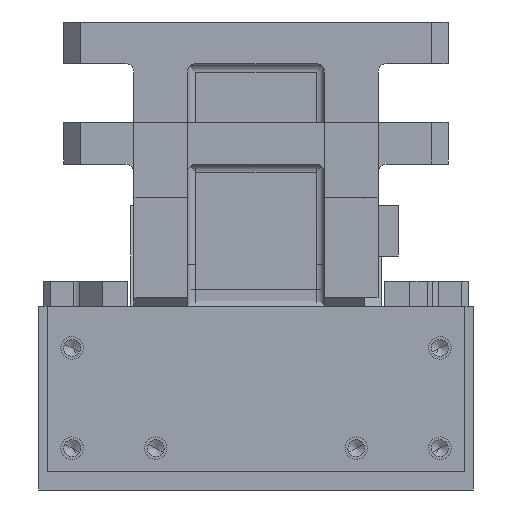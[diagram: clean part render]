
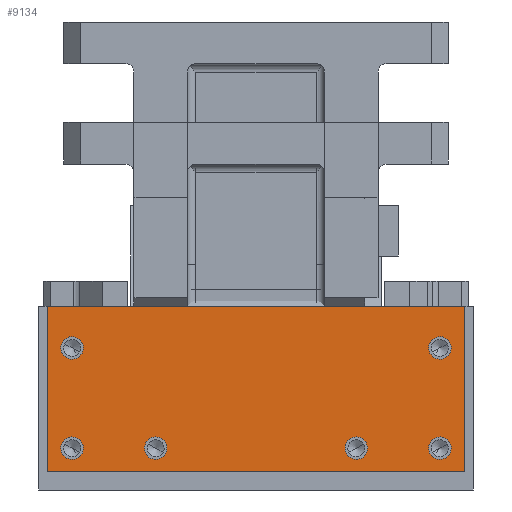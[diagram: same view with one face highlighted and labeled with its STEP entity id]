
A CAD part, left-side view. The second image highlights one B-rep face of the part: STEP entity #9134.
In plain terms, the highlighted planar face has unit normal (-1, 0, 0).
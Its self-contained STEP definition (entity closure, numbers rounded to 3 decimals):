
#7212=CARTESIAN_POINT('Vertex',(-12.,125.,110.)) ;
#7215=CARTESIAN_POINT('Line Origine',(-12.,0.,110.)) ;
#7219=CARTESIAN_POINT('Vertex',(-12.,-125.,110.)) ;
#8983=CARTESIAN_POINT('Vertex',(-12.,65.924,28.236)) ;
#8990=CARTESIAN_POINT('Vertex',(-12.,54.076,21.764)) ;
#8993=CARTESIAN_POINT('Axis2P3D Location',(-12.,60.,25.)) ;
#9005=CARTESIAN_POINT('Axis2P3D Location',(-12.,0.,0.)) ;
#9010=CARTESIAN_POINT('Line Origine',(-12.,125.,60.5)) ;
#9014=CARTESIAN_POINT('Vertex',(-12.,125.,11.)) ;
#9017=CARTESIAN_POINT('Line Origine',(-12.,0.,11.)) ;
#9021=CARTESIAN_POINT('Vertex',(-12.,-125.,11.)) ;
#9024=CARTESIAN_POINT('Line Origine',(-12.,-125.,60.5)) ;
#9035=CARTESIAN_POINT('Axis2P3D Location',(-12.,-110.,25.)) ;
#9039=CARTESIAN_POINT('Vertex',(-12.,-115.924,28.236)) ;
#9041=CARTESIAN_POINT('Vertex',(-12.,-104.076,21.764)) ;
#9044=CARTESIAN_POINT('Axis2P3D Location',(-12.,-110.,25.)) ;
#9053=CARTESIAN_POINT('Axis2P3D Location',(-12.,-110.,85.)) ;
#9057=CARTESIAN_POINT('Vertex',(-12.,-115.924,88.236)) ;
#9059=CARTESIAN_POINT('Vertex',(-12.,-104.076,81.764)) ;
#9062=CARTESIAN_POINT('Axis2P3D Location',(-12.,-110.,85.)) ;
#9071=CARTESIAN_POINT('Axis2P3D Location',(-12.,-60.,25.)) ;
#9075=CARTESIAN_POINT('Vertex',(-12.,-65.924,28.236)) ;
#9077=CARTESIAN_POINT('Vertex',(-12.,-54.076,21.764)) ;
#9080=CARTESIAN_POINT('Axis2P3D Location',(-12.,-60.,25.)) ;
#9089=CARTESIAN_POINT('Axis2P3D Location',(-12.,110.,25.)) ;
#9093=CARTESIAN_POINT('Vertex',(-12.,115.924,28.236)) ;
#9095=CARTESIAN_POINT('Vertex',(-12.,104.076,21.764)) ;
#9098=CARTESIAN_POINT('Axis2P3D Location',(-12.,110.,25.)) ;
#9107=CARTESIAN_POINT('Axis2P3D Location',(-12.,110.,85.)) ;
#9111=CARTESIAN_POINT('Vertex',(-12.,104.076,81.764)) ;
#9113=CARTESIAN_POINT('Vertex',(-12.,115.924,88.236)) ;
#9116=CARTESIAN_POINT('Axis2P3D Location',(-12.,110.,85.)) ;
#9125=CARTESIAN_POINT('Axis2P3D Location',(-12.,60.,25.)) ;
#7217=VECTOR('Line Direction',#7216,1.) ;
#9012=VECTOR('Line Direction',#9011,1.) ;
#9019=VECTOR('Line Direction',#9018,1.) ;
#9026=VECTOR('Line Direction',#9025,1.) ;
#7216=DIRECTION('Vector Direction',(0.,-1.,0.)) ;
#8994=DIRECTION('Axis2P3D Direction',(1.,0.,0.)) ;
#9006=DIRECTION('Axis2P3D Direction',(-1.,-0.,0.)) ;
#9007=DIRECTION('Axis2P3D XDirection',(0.,-1.,0.)) ;
#9011=DIRECTION('Vector Direction',(0.,0.,-1.)) ;
#9018=DIRECTION('Vector Direction',(0.,1.,0.)) ;
#9025=DIRECTION('Vector Direction',(0.,0.,-1.)) ;
#9036=DIRECTION('Axis2P3D Direction',(-1.,-0.,0.)) ;
#9045=DIRECTION('Axis2P3D Direction',(-1.,-0.,0.)) ;
#9054=DIRECTION('Axis2P3D Direction',(-1.,-0.,0.)) ;
#9063=DIRECTION('Axis2P3D Direction',(-1.,-0.,0.)) ;
#9072=DIRECTION('Axis2P3D Direction',(-1.,-0.,0.)) ;
#9081=DIRECTION('Axis2P3D Direction',(-1.,-0.,0.)) ;
#9090=DIRECTION('Axis2P3D Direction',(-1.,-0.,0.)) ;
#9099=DIRECTION('Axis2P3D Direction',(-1.,-0.,0.)) ;
#9108=DIRECTION('Axis2P3D Direction',(-1.,-0.,0.)) ;
#9117=DIRECTION('Axis2P3D Direction',(-1.,-0.,0.)) ;
#9126=DIRECTION('Axis2P3D Direction',(-1.,-0.,0.)) ;
#8995=AXIS2_PLACEMENT_3D('Circle Axis2P3D',#8993,#8994,$) ;
#9008=AXIS2_PLACEMENT_3D('Plane Axis2P3D',#9005,#9006,#9007) ;
#9037=AXIS2_PLACEMENT_3D('Circle Axis2P3D',#9035,#9036,$) ;
#9046=AXIS2_PLACEMENT_3D('Circle Axis2P3D',#9044,#9045,$) ;
#9055=AXIS2_PLACEMENT_3D('Circle Axis2P3D',#9053,#9054,$) ;
#9064=AXIS2_PLACEMENT_3D('Circle Axis2P3D',#9062,#9063,$) ;
#9073=AXIS2_PLACEMENT_3D('Circle Axis2P3D',#9071,#9072,$) ;
#9082=AXIS2_PLACEMENT_3D('Circle Axis2P3D',#9080,#9081,$) ;
#9091=AXIS2_PLACEMENT_3D('Circle Axis2P3D',#9089,#9090,$) ;
#9100=AXIS2_PLACEMENT_3D('Circle Axis2P3D',#9098,#9099,$) ;
#9109=AXIS2_PLACEMENT_3D('Circle Axis2P3D',#9107,#9108,$) ;
#9118=AXIS2_PLACEMENT_3D('Circle Axis2P3D',#9116,#9117,$) ;
#9127=AXIS2_PLACEMENT_3D('Circle Axis2P3D',#9125,#9126,$) ;
#7218=LINE('Line',#7215,#7217) ;
#9013=LINE('Line',#9010,#9012) ;
#9020=LINE('Line',#9017,#9019) ;
#9027=LINE('Line',#9024,#9026) ;
#8996=CIRCLE('generated circle',#8995,6.75) ;
#9038=CIRCLE('generated circle',#9037,6.75) ;
#9047=CIRCLE('generated circle',#9046,6.75) ;
#9056=CIRCLE('generated circle',#9055,6.75) ;
#9065=CIRCLE('generated circle',#9064,6.75) ;
#9074=CIRCLE('generated circle',#9073,6.75) ;
#9083=CIRCLE('generated circle',#9082,6.75) ;
#9092=CIRCLE('generated circle',#9091,6.75) ;
#9101=CIRCLE('generated circle',#9100,6.75) ;
#9110=CIRCLE('generated circle',#9109,6.75) ;
#9119=CIRCLE('generated circle',#9118,6.75) ;
#9128=CIRCLE('generated circle',#9127,6.75) ;
#9009=PLANE('',#9008) ;
#9052=FACE_BOUND('',#9049,.T.) ;
#9070=FACE_BOUND('',#9067,.T.) ;
#9088=FACE_BOUND('',#9085,.T.) ;
#9106=FACE_BOUND('',#9103,.T.) ;
#9124=FACE_BOUND('',#9121,.T.) ;
#9133=FACE_BOUND('',#9130,.T.) ;
#7221=EDGE_CURVE('',#7213,#7220,#7218,.T.) ;
#8997=EDGE_CURVE('',#8991,#8984,#8996,.F.) ;
#9016=EDGE_CURVE('',#7213,#9015,#9013,.T.) ;
#9023=EDGE_CURVE('',#9022,#9015,#9020,.T.) ;
#9028=EDGE_CURVE('',#7220,#9022,#9027,.T.) ;
#9043=EDGE_CURVE('',#9040,#9042,#9038,.F.) ;
#9048=EDGE_CURVE('',#9042,#9040,#9047,.F.) ;
#9061=EDGE_CURVE('',#9058,#9060,#9056,.F.) ;
#9066=EDGE_CURVE('',#9060,#9058,#9065,.F.) ;
#9079=EDGE_CURVE('',#9076,#9078,#9074,.F.) ;
#9084=EDGE_CURVE('',#9078,#9076,#9083,.F.) ;
#9097=EDGE_CURVE('',#9094,#9096,#9092,.T.) ;
#9102=EDGE_CURVE('',#9096,#9094,#9101,.T.) ;
#9115=EDGE_CURVE('',#9112,#9114,#9110,.T.) ;
#9120=EDGE_CURVE('',#9114,#9112,#9119,.T.) ;
#9129=EDGE_CURVE('',#8984,#8991,#9128,.T.) ;
#9029=EDGE_LOOP('',(#9030,#9031,#9032,#9033)) ;
#9049=EDGE_LOOP('',(#9050,#9051)) ;
#9067=EDGE_LOOP('',(#9068,#9069)) ;
#9085=EDGE_LOOP('',(#9086,#9087)) ;
#9103=EDGE_LOOP('',(#9104,#9105)) ;
#9121=EDGE_LOOP('',(#9122,#9123)) ;
#9130=EDGE_LOOP('',(#9131,#9132)) ;
#9030=ORIENTED_EDGE('',*,*,#9016,.T.) ;
#9031=ORIENTED_EDGE('',*,*,#9023,.F.) ;
#9032=ORIENTED_EDGE('',*,*,#9028,.F.) ;
#9033=ORIENTED_EDGE('',*,*,#7221,.F.) ;
#9050=ORIENTED_EDGE('',*,*,#9043,.T.) ;
#9051=ORIENTED_EDGE('',*,*,#9048,.T.) ;
#9068=ORIENTED_EDGE('',*,*,#9061,.T.) ;
#9069=ORIENTED_EDGE('',*,*,#9066,.T.) ;
#9086=ORIENTED_EDGE('',*,*,#9079,.T.) ;
#9087=ORIENTED_EDGE('',*,*,#9084,.T.) ;
#9104=ORIENTED_EDGE('',*,*,#9097,.F.) ;
#9105=ORIENTED_EDGE('',*,*,#9102,.F.) ;
#9122=ORIENTED_EDGE('',*,*,#9115,.F.) ;
#9123=ORIENTED_EDGE('',*,*,#9120,.F.) ;
#9131=ORIENTED_EDGE('',*,*,#9129,.F.) ;
#9132=ORIENTED_EDGE('',*,*,#8997,.F.) ;
#7213=VERTEX_POINT('',#7212) ;
#7220=VERTEX_POINT('',#7219) ;
#8984=VERTEX_POINT('',#8983) ;
#8991=VERTEX_POINT('',#8990) ;
#9015=VERTEX_POINT('',#9014) ;
#9022=VERTEX_POINT('',#9021) ;
#9040=VERTEX_POINT('',#9039) ;
#9042=VERTEX_POINT('',#9041) ;
#9058=VERTEX_POINT('',#9057) ;
#9060=VERTEX_POINT('',#9059) ;
#9076=VERTEX_POINT('',#9075) ;
#9078=VERTEX_POINT('',#9077) ;
#9094=VERTEX_POINT('',#9093) ;
#9096=VERTEX_POINT('',#9095) ;
#9112=VERTEX_POINT('',#9111) ;
#9114=VERTEX_POINT('',#9113) ;
#9134=ADVANCED_FACE('base',(#9034,#9052,#9070,#9088,#9106,#9124,#9133),#9009,.T.) ;
#9034=FACE_OUTER_BOUND('',#9029,.T.) ;
